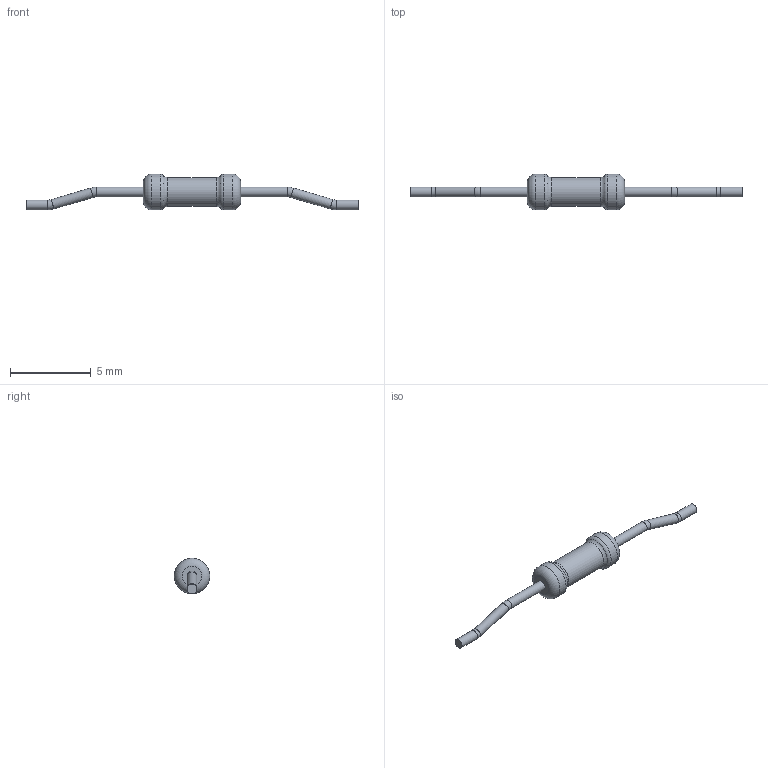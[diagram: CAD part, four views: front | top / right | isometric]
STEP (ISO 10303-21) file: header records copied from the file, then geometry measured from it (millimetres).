
FILE_DESCRIPTION(('STEP AP203'), '1');
FILE_NAME('C2-33-0.125 (3)', '', ('UNSPECIFIED'), ('UNSPECIFIED'), 'ASCON STEP Converter 1.6', 'ASCON Math Kernel', '');
FILE_SCHEMA(('CONFIG_CONTROL_DESIGN'));
Length unit declared in the file: millimetre
Bounding box: 20.5 x 2.2 x 2.2 mm (x, y, z)
Volume: 21.7 mm3; surface area: 69.8 mm2
Topology: 1 solids, 1 shells, 23 faces, 41 edges, 22 vertices
Faces by surface type: torus 10, cylinder 9, plane 4
Full cylindrical faces by diameter (mm): 0.6 x6, 1.776 x1, 2.2 x2
Entity records: 682 total; most frequent: DIRECTION 92, CARTESIAN_POINT 68, AXIS2_PLACEMENT_3D 46, EDGE_LOOP 44, ORIENTED_EDGE 44, FACE_OUTER_BOUND 38, COLOUR_RGB 24, FILL_AREA_STYLE_COLOUR 24
